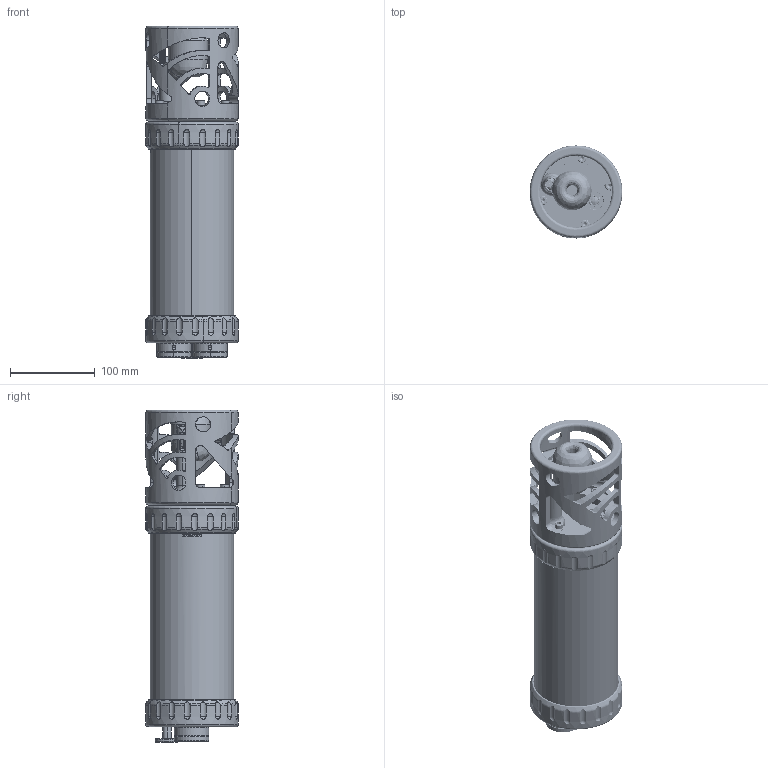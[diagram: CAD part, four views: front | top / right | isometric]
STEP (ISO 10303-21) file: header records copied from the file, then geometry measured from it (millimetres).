
FILE_DESCRIPTION (( 'STEP AP214' ), '1' );
FILE_NAME ('11438 V7 SSK 704 Bathy 2WB.STEP', '2020-01-14T15:07:57', ( '' ), ( '' ), 'SwSTEP 2.0', 'SolidWorks 2018', '' );
FILE_SCHEMA (( 'AUTOMOTIVE_DESIGN' ));
Length unit declared in the file: millimetre
Products named in the file (1): 11438 V7 SSK 704 Bathy 2WB
Bounding box: 109.64 x 109.64 x 392.6 mm (x, y, z)
Surface area: 378387.1 mm2 (no closed solid volume)
Topology: 0 solids, 70 shells, 3477 faces, 8420 edges, 5106 vertices
Faces by surface type: cylinder 1084, plane 957, torus 604, cone 558, bspline 201, sphere 73
Entity records: 159218 total; most frequent: CARTESIAN_POINT 41093, DIRECTION 16744, ORIENTED_EDGE 16320, EDGE_CURVE 8195, AXIS2_PLACEMENT_3D 6725, VERTEX_POINT 5045, EDGE_LOOP 3901, UNCERTAINTY_MEASURE_WITH_UNIT 3538
